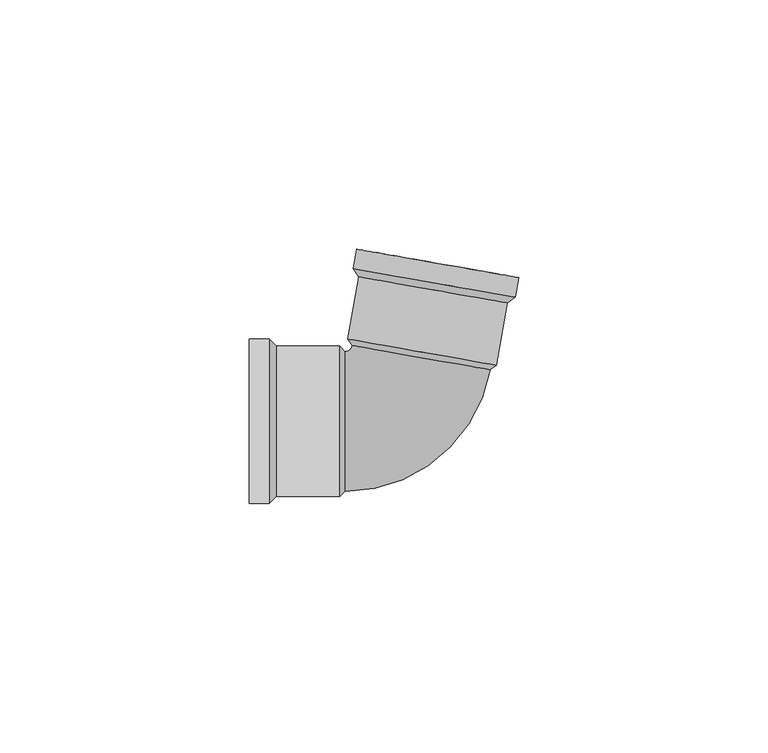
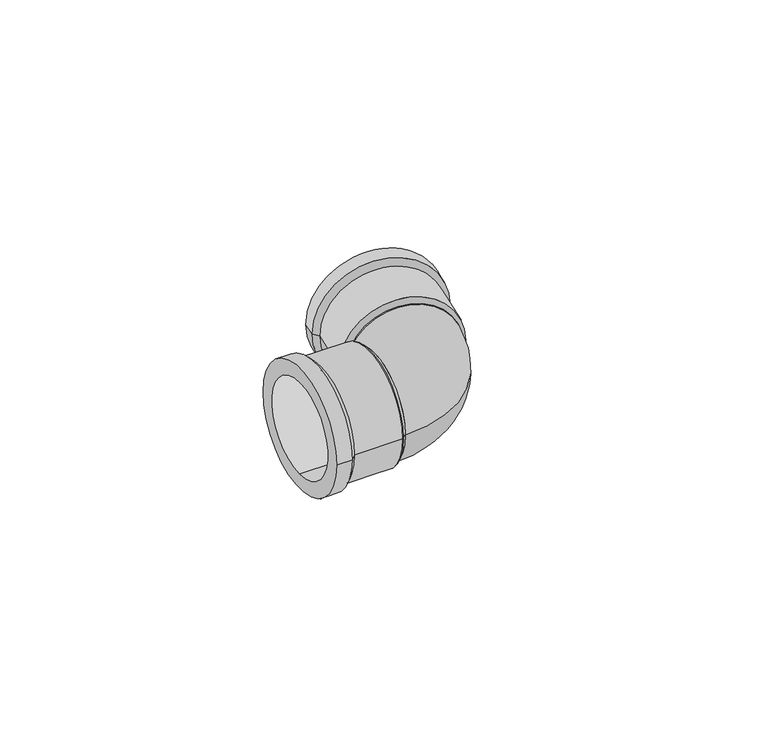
"""IFC4 building model written with IfcOpenShell, lengths in millimetres: pipe fitting geometry, Joelho 45_90 - Agua Fria_Soldavel : Joelho 45_90 - Agua Fria_Soldavel."""

import ifcopenshell
import ifcopenshell.guid

model = None  # the IFC model being written
_history = None  # IfcOwnerHistory: only IFC2X3 demands one
_inside = {}  # id of a spatial element -> (the spatial element, [elements in it])
_under = {}  # id of a project, library or spatial element -> (it, [spatial elements below it])
_declared = {}  # id of a project -> (the project, [libraries it declares])
_typed = {}  # id of a type object -> (the type object, [elements of that type])
_made_of = {}  # id of a material, layer set ... -> (it, [elements and type objects made of it])


def new_model(schema):
    """Start an empty IFC model of exactly this schema.

    Asked for "IFC4X3", IfcOpenShell would pick the latest addendum, in which some entities
    have other attributes; the version numbers below select the first issue.
    IFC2X3 requires an IfcOwnerHistory on every rooted entity: one is made here for all.
    """
    global model, _history
    if schema == "IFC4X3":
        model = ifcopenshell.file(schema_version=(4, 3, 0, 0))
    else:
        model = ifcopenshell.file(schema=schema)
    _inside.clear()
    _under.clear()
    _declared.clear()
    _typed.clear()
    _made_of.clear()
    _history = None
    if model.schema == "IFC2X3":
        org = make("IfcOrganization", Name="unknown")
        user = make(
            "IfcPersonAndOrganization",
            ThePerson=make("IfcPerson", FamilyName="unknown"),
            TheOrganization=org,
        )
        app = make(
            "IfcApplication",
            ApplicationDeveloper=org,
            Version="unknown",
            ApplicationFullName="unknown",
            ApplicationIdentifier="unknown",
        )
        _history = make(
            "IfcOwnerHistory",
            OwningUser=user,
            OwningApplication=app,
            ChangeAction="ADDED",
            CreationDate=0,
        )
    return model


def make(cls, **values):
    """One entity of the class cls with the attributes given. An attribute that is None is left unset."""
    return model.create_entity(
        cls, **{name: value for name, value in values.items() if value is not None}
    )


def rooted(cls, **values):
    """An entity with a GlobalId (a new one), such as an element, a storey or a relation."""
    return make(cls, GlobalId=ifcopenshell.guid.new(), OwnerHistory=_history, **values)


def si_unit(unit_type, name, prefix=None):
    """IfcSIUnit, for example si_unit("LENGTHUNIT", "METRE", prefix="MILLI")."""
    return make("IfcSIUnit", UnitType=unit_type, Prefix=prefix, Name=name)


def assignment(units):
    """IfcUnitAssignment: the units of a project."""
    return None if units is None else make("IfcUnitAssignment", Units=units)


def point(xyz):
    """IfcCartesianPoint."""
    return None if xyz is None else make("IfcCartesianPoint", Coordinates=xyz)


def direction(xyz):
    """IfcDirection."""
    return None if xyz is None else make("IfcDirection", DirectionRatios=xyz)


def frame(location, z_axis=None, x_axis=None):
    """IfcAxis2Placement3D, a coordinate frame: its origin and axes. An axis left out is left unset."""
    return make(
        "IfcAxis2Placement3D",
        Location=point(location),
        Axis=direction(z_axis),
        RefDirection=direction(x_axis),
    )


def origin():
    """The frame at (0, 0, 0) with its axes left unset."""
    return frame((0.0, 0.0, 0.0))


def place(relative_to, where):
    """IfcLocalPlacement: puts the frame where relative to a parent placement (None: the world)."""
    return make(
        "IfcLocalPlacement", PlacementRelTo=relative_to, RelativePlacement=where
    )


def context(
    kind, dimensions, precision=None, world=None, true_north=None, identifier=None
):
    """IfcGeometricRepresentationContext, for example the 3D "Model" context."""
    return make(
        "IfcGeometricRepresentationContext",
        ContextIdentifier=identifier,
        ContextType=kind,
        CoordinateSpaceDimension=dimensions,
        Precision=precision,
        WorldCoordinateSystem=world,
        TrueNorth=true_north,
    )


def project(units=None, contexts=None):
    """IfcProject with its units and contexts."""
    return rooted(
        "IfcProject",
        Name="project",
        RepresentationContexts=contexts,
        UnitsInContext=assignment(units),
    )


def spatial(cls, under=None, at=None, **own):
    """A site, building, storey or space (cls), placed at a placement, below another one or the project."""
    s = rooted(cls, ObjectPlacement=at, **own)
    if under is not None:
        _under.setdefault(under.id(), (under, []))[1].append(s)
    return s


def polyline(points):
    """IfcPolyline through the points."""
    return make("IfcPolyline", Points=[point(p) for p in points])


def circle_curve(where, radius):
    """IfcCircle in the frame where."""
    return make("IfcCircle", Position=where, Radius=radius)


def ellipse_curve(where, semi_axis1, semi_axis2):
    """IfcEllipse in the frame where."""
    return make(
        "IfcEllipse", Position=where, SemiAxis1=semi_axis1, SemiAxis2=semi_axis2
    )


def trimmed(basis, trim1, trim2, sense, master):
    """IfcTrimmedCurve: the piece of a basis curve between two trims."""
    return make(
        "IfcTrimmedCurve",
        BasisCurve=basis,
        Trim1=trim1,
        Trim2=trim2,
        SenseAgreement=sense,
        MasterRepresentation=master,
    )


def shape(context_of_items, identifier, shape_type, items):
    """IfcShapeRepresentation: the items that make up one representation, for example the "Body"."""
    return make(
        "IfcShapeRepresentation",
        ContextOfItems=context_of_items,
        RepresentationIdentifier=identifier,
        RepresentationType=shape_type,
        Items=items,
    )


def source(mapping_origin, context_of_items, identifier, shape_type, items):
    """IfcRepresentationMap: a shape defined once, which mapped items show again and again."""
    return make(
        "IfcRepresentationMap",
        MappingOrigin=mapping_origin,
        MappedRepresentation=shape(context_of_items, identifier, shape_type, items),
    )


def transform(
    local_origin,
    x_axis=None,
    y_axis=None,
    z_axis=None,
    scale=None,
    scale2=None,
    scale3=None,
    uniform=True,
):
    """IfcCartesianTransformationOperator3D, or its non-uniform kind. x_axis, y_axis, z_axis: its Axis1, 2, 3."""
    if uniform:
        return make(
            "IfcCartesianTransformationOperator3D",
            Axis1=direction(x_axis),
            Axis2=direction(y_axis),
            LocalOrigin=point(local_origin),
            Scale=scale,
            Axis3=direction(z_axis),
        )
    return make(
        "IfcCartesianTransformationOperator3DnonUniform",
        Axis1=direction(x_axis),
        Axis2=direction(y_axis),
        LocalOrigin=point(local_origin),
        Scale=scale,
        Axis3=direction(z_axis),
        Scale2=scale2,
        Scale3=scale3,
    )


def mapped(mapping_source, mapping_target):
    """IfcMappedItem: shows the shape of a source again, moved by a transform."""
    return make(
        "IfcMappedItem", MappingSource=mapping_source, MappingTarget=mapping_target
    )


def made_of(thing, what):
    """Note that an element or type object is made of a material, layer set ...; save() writes the relation."""
    if what is not None:
        _made_of.setdefault(what.id(), (what, []))[1].append(thing)
    return thing


def element(
    cls,
    number,
    at=None,
    inside=None,
    cuts=None,
    type_object=None,
    material=None,
    context=None,
    identifier="Body",
    shape_type=None,
    held_by="IfcProductDefinitionShape",
    body=None,
    shapes=None,
    **own,
):
    """One element of the class cls, such as IfcWall. Its Tag is "e" and its number.

    at: its placement. inside: the storey or other place that contains it. cuts: it is an
    opening in that element (IfcRelVoidsElement). A single representation is given by context,
    identifier, shape_type and body (its items); several are given by shapes. held_by: the class
    of the entity that holds the representations. save() writes the other relations.
    """
    e = rooted(cls, Tag="e%d" % number, ObjectPlacement=at, **own)
    if body is not None:
        shapes = [shape(context, identifier, shape_type, body)]
    if shapes is not None:
        e.Representation = make(held_by, Representations=shapes)
    if inside is not None:
        _inside.setdefault(inside.id(), (inside, []))[1].append(e)
    if cuts is not None:
        rooted(
            "IfcRelVoidsElement", RelatingBuildingElement=cuts, RelatedOpeningElement=e
        )
    if type_object is not None:
        _typed.setdefault(type_object.id(), (type_object, []))[1].append(e)
    return made_of(e, material)


def aggregate(whole, parts):
    """IfcRelAggregates: a whole, such as a stair, and the parts it consists of."""
    return rooted("IfcRelAggregates", RelatingObject=whole, RelatedObjects=parts)


def save(model, path):
    """Write the relations noted so far, then the file.

    IfcRelAggregates (storeys below a building ...), IfcRelContainedInSpatialStructure (elements
    in a storey), IfcRelDefinesByType, IfcRelAssociatesMaterial and IfcRelDeclares: one each for
    every whole, place, type object, material and project.
    """
    for whole, parts in _under.values():
        aggregate(whole, parts)
    for where, things in _inside.values():
        rooted(
            "IfcRelContainedInSpatialStructure",
            RelatedElements=things,
            RelatingStructure=where,
        )
    for kind, things in _typed.values():
        rooted("IfcRelDefinesByType", RelatedObjects=things, RelatingType=kind)
    for what, things in _made_of.values():
        rooted("IfcRelAssociatesMaterial", RelatedObjects=things, RelatingMaterial=what)
    for by, libraries in _declared.values():
        rooted("IfcRelDeclares", RelatingContext=by, RelatedDefinitions=libraries)
    model.write(path)


def plane_surface(at):
    """IfcPlane: the flat surface through the origin of the frame at, square to its z axis."""
    return make("IfcPlane", Position=at)


def cylinder_surface(at, radius):
    """IfcCylindricalSurface: all points at the distance radius from the z axis of the frame at."""
    return make("IfcCylindricalSurface", Position=at, Radius=radius)


def revolved_surface(curve, axis_point, axis_direction):
    """IfcSurfaceOfRevolution: the curve turned about the line through axis_point along axis_direction."""
    return make(
        "IfcSurfaceOfRevolution",
        SweptCurve=make("IfcArbitraryOpenProfileDef", ProfileType="CURVE", Curve=curve),
        AxisPosition=make("IfcAxis1Placement", Location=point(axis_point), Axis=direction(axis_direction)),
    )


def advanced_brep(points, edges, surfaces, faces):
    """IfcAdvancedBrep: a solid bounded by faces that lie on surfaces and meet in shared edges.

    An edge is (start, end): straight between two places in points (the first is 0);
    or (start, end, curve); or (start, end, curve, False) where it runs against its curve.
    A face is (place in surfaces, loops), or (place, loops, False) where it looks against
    its surface's normal. A loop lists edges by number (the first is 1), with a minus sign
    where the edge is run from its end to its start. The first loop is the outer one.
    """
    corners = [point(p) for p in points]
    vertices = [make("IfcVertexPoint", VertexGeometry=c) for c in corners]
    made = []
    for start, end, *more in edges:
        made.append(
            make(
                "IfcEdgeCurve",
                EdgeStart=vertices[start],
                EdgeEnd=vertices[end],
                EdgeGeometry=more[0] if more else make("IfcPolyline", Points=[corners[start], corners[end]]),
                SameSense=more[1] if len(more) > 1 else True,
            )
        )
    hull = []
    for where, loops, *sense in faces:
        bounds = []
        for j, loop in enumerate(loops):
            ring = [make("IfcOrientedEdge", EdgeElement=made[abs(k) - 1], Orientation=k > 0) for k in loop]
            bounds.append(
                make(
                    "IfcFaceOuterBound" if j == 0 else "IfcFaceBound",
                    Bound=make("IfcEdgeLoop", EdgeList=ring),
                    Orientation=True,
                )
            )
        hull.append(make("IfcAdvancedFace", Bounds=bounds, FaceSurface=surfaces[where], SameSense=sense[0] if sense else True))
    return make("IfcAdvancedBrep", Outer=make("IfcClosedShell", CfsFaces=hull))


def pipe_fitting_5beb446b(model_context):
    return source(origin(), model_context, "Body", "AdvancedBrep", [
        advanced_brep(
        [(17.320086, 11.2696543, 0.0), (-12.4211082, 16.5138293, 0.0), (16.0851767, 10.3704328, 0.0), (-11.568225, 15.2464737, 0.0)],
        [
            (0, 1, circle_curve(frame((2.4494889, 13.8917418, 0.0), z_axis=(0.1736481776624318, 0.9848077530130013, 0.0), x_axis=(0.9848077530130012, -0.17364817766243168, 0.0)), 15.1)),
            (1, 0, circle_curve(frame((2.4494889, 13.8917418, 0.0), z_axis=(0.1736481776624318, 0.9848077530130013, 0.0), x_axis=(-0.9848077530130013, 0.17364817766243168, 0.0)), 15.1)),
            (2, 3, circle_curve(frame((2.2584759, 12.8084532, 0.0), z_axis=(-0.1736481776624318, -0.9848077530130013, 0.0), x_axis=(-0.9848077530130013, 0.17364817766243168, 0.0)), 14.04)),
            (3, 2, circle_curve(frame((2.2584759, 12.8084532, 0.0), z_axis=(-0.1736481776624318, -0.9848077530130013, 0.0), x_axis=(0.9848077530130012, -0.17364817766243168, 0.0)), 14.04)),
            (0, 2),
            (3, 1),
        ],
        [
            plane_surface(frame((2.4494889, 13.8917418, 0.0), z_axis=(0.1736481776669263, 0.9848077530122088, 0.0), x_axis=(0.0, 0.0, -1.0))),
            plane_surface(frame((2.2584759, 12.8084532, 0.0), z_axis=(-0.1736481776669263, -0.9848077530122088, 0.0), x_axis=(0.0, 0.0, -1.0))),
            revolved_surface(polyline([(-11.56822491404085, 15.246473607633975, 0.0), (-12.4211082, 16.5138293, 0.0)]), (-0.2715453, -1.5400099, 0.0), (0.1736481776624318, 0.9848077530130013, 0.0)),
            revolved_surface(polyline([(16.085176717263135, 10.370432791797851, 0.0), (17.320086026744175, 11.269654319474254, 0.0)]), (-0.2715453, -1.5400099, 0.0), (0.1736481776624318, 0.9848077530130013, 0.0)),
        ],
        [
            (0, [[1, 2]]),
            (1, [[3, 4]]),
            (2, [[-1, 5, -4, 6]]),
            (3, [[-2, -6, -3, -5]]),
        ],
    ),
        advanced_brep(
        [(-14.1060443, 15.1, 0.0), (-14.1060443, -15.1, 0.0), (-13.0060443, 14.04, 0.0), (-13.0060443, -14.04, 0.0)],
        [
            (0, 1, circle_curve(frame((-14.1060443, 0.0, 0.0), z_axis=(-1.0, 0.0, 0.0), x_axis=(0.0, 1.0, 0.0)), 15.1)),
            (1, 0, circle_curve(frame((-14.1060443, 0.0, 0.0), z_axis=(-1.0, 0.0, 0.0), x_axis=(0.0, -1.0, 0.0)), 15.1)),
            (2, 3, circle_curve(frame((-13.0060443, 0.0, 0.0), z_axis=(1.0, 0.0, 0.0), x_axis=(0.0, -1.0, 0.0)), 14.04)),
            (3, 2, circle_curve(frame((-13.0060443, 0.0, 0.0), z_axis=(1.0, 0.0, 0.0), x_axis=(0.0, 1.0, 0.0)), 14.04)),
            (3, 1),
            (0, 2),
        ],
        [
            plane_surface(frame((-14.1060443, 0.0, 0.0), z_axis=(-1.0, 0.0, 0.0), x_axis=(0.0, 0.0, -1.0))),
            plane_surface(frame((-13.0060443, 0.0, 0.0), z_axis=(1.0, 0.0, 0.0), x_axis=(0.0, 0.0, -1.0))),
            revolved_surface(polyline([(-13.0060443, -14.039999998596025, 0.0), (-14.1060443, -15.1, 0.0)]), (1.563767, 0.0, 0.0), (-1.0, 0.0, 0.0)),
            revolved_surface(polyline([(-13.0060443, 14.039999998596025, 0.0), (-14.1060443, 15.1, 0.0)]), (1.563767, 0.0, 0.0), (-1.0, 0.0, 0.0)),
        ],
        [
            (0, [[1, 2]]),
            (1, [[3, 4]]),
            (2, [[-4, 5, -1, 6]]),
            (3, [[-3, -6, -2, -5]]),
        ],
    ),
        advanced_brep(
        [(-32.2060443, 16.5, 0.0), (-32.2060443, -16.5, 0.0), (-32.2060443, 0.0, 12.5), (-32.2060443, 0.0, -12.5), (-28.2060443, -16.5, 0.0), (-28.2060443, 16.5, 0.0), (-26.8060443, 15.1, 0.0), (-26.8060443, -15.1, 0.0), (-14.1060443, 15.1, 0.0), (-14.1060443, -15.1, 0.0), (-14.1060443, 0.0, -12.5), (-14.1060443, 0.0, 12.5)],
        [
            (0, 1, circle_curve(frame((-32.2060443, 0.0, 0.0), z_axis=(-1.0, 0.0, 0.0), x_axis=(0.0, -1.0, 0.0)), 16.5)),
            (1, 0, circle_curve(frame((-32.2060443, 0.0, 0.0), z_axis=(-1.0, 0.0, 0.0), x_axis=(0.0, -1.0, 0.0)), 16.5)),
            (2, 3, circle_curve(frame((-32.2060443, 0.0, 0.0), z_axis=(1.0, 0.0, 0.0), x_axis=(0.0, 0.0, -1.0)), 12.5)),
            (3, 2, circle_curve(frame((-32.2060443, 0.0, 0.0), z_axis=(1.0, 0.0, 0.0), x_axis=(0.0, 0.0, -1.0)), 12.5)),
            (1, 4),
            (4, 5, circle_curve(frame((-28.2060443, 0.0, 0.0), z_axis=(-1.0, 0.0, 0.0), x_axis=(0.0, -1.0, 0.0)), 16.5)),
            (5, 0),
            (5, 4, circle_curve(frame((-28.2060443, 0.0, 0.0), z_axis=(-1.0, 0.0, 0.0), x_axis=(0.0, -1.0, 0.0)), 16.5)),
            (6, 5),
            (4, 7),
            (7, 6, circle_curve(frame((-26.8060443, 0.0, 0.0), z_axis=(-1.0, 0.0, 0.0), x_axis=(0.0, -1.0, 0.0)), 15.1)),
            (6, 7, circle_curve(frame((-26.8060443, 0.0, 0.0), z_axis=(-1.0, 0.0, 0.0), x_axis=(0.0, 1.0, 0.0)), 15.1)),
            (8, 9, circle_curve(frame((-14.1060443, 0.0, 0.0), z_axis=(1.0, 0.0, 0.0), x_axis=(0.0, -1.0, 0.0)), 15.1)),
            (9, 8, circle_curve(frame((-14.1060443, 0.0, 0.0), z_axis=(1.0, 0.0, 0.0), x_axis=(0.0, -1.0, 0.0)), 15.1)),
            (10, 11, circle_curve(frame((-14.1060443, 0.0, 0.0), z_axis=(-1.0, 0.0, 0.0), x_axis=(0.0, 0.0, -1.0)), 12.5)),
            (11, 10, circle_curve(frame((-14.1060443, 0.0, 0.0), z_axis=(-1.0, 0.0, 0.0), x_axis=(0.0, 0.0, -1.0)), 12.5)),
            (8, 6),
            (7, 9),
            (10, 3),
            (2, 11),
        ],
        [
            plane_surface(frame((-32.2060443, 0.0, 0.0), z_axis=(-1.0, 0.0, 0.0), x_axis=(0.0, 0.0, 1.0))),
            cylinder_surface(frame((-28.2060443, 0.0, 0.0), z_axis=(1.0, 0.0, 0.0), x_axis=(0.0, -1.0, 0.0)), 16.5),
            revolved_surface(polyline([(-26.8060443, 15.1, 0.0), (-28.206044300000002, 16.5, 0.0)]), (-11.7060443, 0.0, 0.0), (-1.0, 0.0, 0.0)),
            plane_surface(frame((-14.1060443, 0.0, 0.0), z_axis=(1.0, 0.0, 0.0), x_axis=(0.0, 0.0, 1.0))),
            cylinder_surface(frame((-14.1060443, 0.0, 0.0), z_axis=(1.0, 0.0, 0.0), x_axis=(0.0, -1.0, 0.0)), 15.1),
            revolved_surface(polyline([(-14.1060443, 0.0, -12.5), (-32.2060443, 0.0, -12.5)]), (-32.2060443, 0.0, 0.0), (1.0, 0.0, 0.0)),
        ],
        [
            (0, [[1, 2], [3, 4]]),
            (1, [[-2, 5, 6, 7]]),
            (1, [[-1, -7, 8, -5]]),
            (2, [[9, -6, 10, 11]]),
            (2, [[-9, 12, -10, -8]]),
            (3, [[13, 14], [15, 16]]),
            (4, [[-13, 17, -11, 18]]),
            (4, [[-14, -18, -12, -17]]),
            (5, [[19, -3, 20, -15]]),
            (5, [[-19, -16, -20, -4]]),
        ],
    ),
        advanced_brep(
        [(-13.0060443, -14.04, 0.0), (-13.0060443, 14.04, 0.0), (16.0851767, 10.3704328, 0.0), (-11.568225, 15.2464737, 0.0)],
        [
            (0, 1, circle_curve(frame((-13.0060443, 0.0, 0.0), z_axis=(-1.0, 0.0, 0.0), x_axis=(0.0, 1.0, 0.0)), 14.04)),
            (1, 0, circle_curve(frame((-13.0060443, 0.0, 0.0), z_axis=(-1.0, 0.0, 0.0), x_axis=(0.0, 1.0, 0.0)), 14.04)),
            (2, 3, circle_curve(frame((2.2584759, 12.8084532, 0.0), z_axis=(0.17364817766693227, 0.9848077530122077, 0.0), x_axis=(-0.9848077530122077, 0.17364817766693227, 0.0)), 14.04)),
            (3, 2, circle_curve(frame((2.2584759, 12.8084532, 0.0), z_axis=(0.17364817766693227, 0.9848077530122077, 0.0), x_axis=(-0.9848077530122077, 0.17364817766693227, 0.0)), 14.04)),
            (0, 2, circle_curve(frame((-13.0060443, 15.5, 0.0), z_axis=(0.0, 0.0, 1.0), x_axis=(0.0, -1.0, 0.0)), 29.54)),
            (3, 1, circle_curve(frame((-13.0060443, 15.5, 0.0), z_axis=(0.0, 0.0, -1.0), x_axis=(0.0, -1.0, 0.0)), 1.46)),
        ],
        [
            plane_surface(frame((-13.0060443, 0.0, 0.0), z_axis=(-1.0, 0.0, 0.0), x_axis=(0.0, 0.0, 1.0))),
            plane_surface(frame((2.2584759, 12.8084532, 0.0), z_axis=(0.17364817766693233, 0.9848077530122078, 0.0), x_axis=(0.0, 0.0, 1.0))),
            revolved_surface(trimmed(ellipse_curve(frame((-13.0060443, 0.0, 0.0), z_axis=(-1.0, 0.0, 0.0), x_axis=(0.0, 1.0, 0.0)), 14.04, 14.04), [point((-13.0060443, -14.04, 0.0))], [point((-13.0060443, 14.04, 0.0))], True, "CARTESIAN"), (-13.0060443, 15.5, 0.0), (0.0, 0.0, 1.0)),
            revolved_surface(trimmed(ellipse_curve(frame((-13.0060443, 0.0, 0.0), z_axis=(-1.0, 0.0, 0.0), x_axis=(0.0, 1.0, 0.0)), 14.04, 14.04), [point((-13.0060443, 14.04, 0.0))], [point((-13.0060443, -14.04, 0.0))], True, "CARTESIAN"), (-13.0060443, 15.5, 0.0), (0.0, 0.0, 1.0)),
        ],
        [
            (0, [[1, 2]]),
            (1, [[3, 4]]),
            (2, [[-1, 5, -4, 6]]),
            (3, [[-2, -6, -3, -5]]),
        ],
    ),
        advanced_brep(
        [(17.320086, 11.2696543, 0.0), (-12.4211082, 16.5138293, 0.0), (2.4494889, 13.8917418, -12.5), (2.4494889, 13.8917418, 12.5), (19.5254178, 23.7767128, 0.0), (-10.2157763, 29.0208877, 0.0), (21.1472561, 24.9123362, 0.0), (-11.3513997, 30.642726, 0.0), (21.8418488, 28.8515672, 0.0), (-10.656807, 34.581957, 0.0), (5.5925209, 31.7167621, 12.5), (5.5925209, 31.7167621, -12.5)],
        [
            (0, 1, circle_curve(frame((2.4494889, 13.8917418, 0.0), z_axis=(-0.1736481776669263, -0.9848077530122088, 0.0), x_axis=(-0.9848077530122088, 0.1736481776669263, 0.0)), 15.1)),
            (1, 0, circle_curve(frame((2.4494889, 13.8917418, 0.0), z_axis=(-0.1736481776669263, -0.9848077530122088, 0.0), x_axis=(-0.9848077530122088, 0.1736481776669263, 0.0)), 15.1)),
            (2, 3, circle_curve(frame((2.4494889, 13.8917418, 0.0), z_axis=(0.173648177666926, 0.9848077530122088, 0.0), x_axis=(0.0, 0.0, -1.0)), 12.5)),
            (3, 2, circle_curve(frame((2.4494889, 13.8917418, 0.0), z_axis=(0.173648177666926, 0.9848077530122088, 0.0), x_axis=(0.0, 0.0, -1.0)), 12.5)),
            (0, 4),
            (4, 5, circle_curve(frame((4.6548207, 26.3988002, 0.0), z_axis=(-0.1736481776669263, -0.9848077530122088, 0.0), x_axis=(-0.9848077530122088, 0.1736481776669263, 0.0)), 15.1)),
            (5, 1),
            (5, 4, circle_curve(frame((4.6548207, 26.3988002, 0.0), z_axis=(-0.1736481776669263, -0.9848077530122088, 0.0), x_axis=(-0.9848077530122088, 0.1736481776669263, 0.0)), 15.1)),
            (4, 6),
            (6, 7, circle_curve(frame((4.8979282, 27.7775311, 0.0), z_axis=(-0.17364817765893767, -0.9848077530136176, 0.0), x_axis=(-0.9848077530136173, 0.1736481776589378, 0.0)), 16.5)),
            (7, 5),
            (7, 6, circle_curve(frame((4.8979282, 27.7775311, 0.0), z_axis=(-0.17364817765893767, -0.9848077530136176, 0.0), x_axis=(0.9848077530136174, -0.1736481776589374, 0.0)), 16.5)),
            (8, 9, circle_curve(frame((5.5925209, 31.7167621, 0.0), z_axis=(0.173648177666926, 0.9848077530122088, 0.0), x_axis=(-0.9848077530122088, 0.173648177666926, 0.0)), 16.5)),
            (9, 8, circle_curve(frame((5.5925209, 31.7167621, 0.0), z_axis=(0.173648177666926, 0.9848077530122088, 0.0), x_axis=(-0.9848077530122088, 0.173648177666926, 0.0)), 16.5)),
            (10, 11, circle_curve(frame((5.5925209, 31.7167621, 0.0), z_axis=(-0.173648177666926, -0.9848077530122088, 0.0), x_axis=(0.0, 0.0, -1.0)), 12.5)),
            (11, 10, circle_curve(frame((5.5925209, 31.7167621, 0.0), z_axis=(-0.173648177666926, -0.9848077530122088, 0.0), x_axis=(0.0, 0.0, -1.0)), 12.5)),
            (9, 7),
            (6, 8),
            (2, 11),
            (10, 3),
        ],
        [
            plane_surface(frame((2.4494889, 13.8917418, 0.0), z_axis=(-0.1736481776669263, -0.9848077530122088, 0.0), x_axis=(0.0, 0.0, 1.0))),
            cylinder_surface(frame((2.4494889, 13.8917418, 0.0), z_axis=(-0.1736481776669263, -0.9848077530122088, 0.0), x_axis=(-0.9848077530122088, 0.1736481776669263, 0.0)), 15.1),
            revolved_surface(polyline([(19.525417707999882, 23.776712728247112, 0.0), (21.1472561, 24.9123362, 0.0)]), (2.0327333, 11.5282032, 0.0), (0.17364817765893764, 0.9848077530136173, 0.0)),
            plane_surface(frame((5.5925209, 31.7167621, 0.0), z_axis=(0.173648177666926, 0.9848077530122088, 0.0), x_axis=(0.0, 0.0, 1.0))),
            cylinder_surface(frame((4.8979282, 27.7775311, 0.0), z_axis=(-0.173648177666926, -0.9848077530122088, 0.0), x_axis=(-0.9848077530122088, 0.173648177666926, 0.0)), 16.5),
            revolved_surface(polyline([(2.4494888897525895, 13.891741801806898, -12.5), (5.5925209, 31.7167621, -12.5)]), (5.5925209, 31.7167621, 0.0), (-0.173648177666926, -0.9848077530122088, 0.0)),
        ],
        [
            (0, [[1, 2], [3, 4]]),
            (1, [[-1, 5, 6, 7]]),
            (1, [[-2, -7, 8, -5]]),
            (2, [[9, 10, 11, -6]]),
            (2, [[-9, -8, -11, 12]]),
            (3, [[13, 14], [15, 16]]),
            (4, [[-14, 17, -10, 18]]),
            (4, [[-13, -18, -12, -17]]),
            (5, [[19, -15, 20, -3]]),
            (5, [[-19, -4, -20, -16]]),
        ],
    ),
    ])


if __name__ == "__main__":
    model = new_model("IFC4")
    model_context = context("Model", 3, world=origin())
    ifc_project = project(units=[si_unit("LENGTHUNIT", "METRE", prefix="MILLI")], contexts=[model_context])
    site = spatial("IfcSite", under=ifc_project)
    building = spatial("IfcBuilding", under=site)
    placement = place(None, origin())
    pipe_fitting_shape = pipe_fitting_5beb446b(model_context)
    element("IfcPipeFitting", 1, ObjectType="Joelho 45_90 - Agua Fria_Soldavel : Joelho 45_90 - Agua Fria_Soldavel", at=placement, inside=building, context=model_context, shape_type="MappedRepresentation", body=[
        mapped(pipe_fitting_shape, transform((0.0, 0.0, 0.0), x_axis=(1.0, 0.0, 0.0), y_axis=(0.0, 1.0, 0.0), z_axis=(0.0, 0.0, 1.0))),
    ])
    save(model, "model.ifc")
